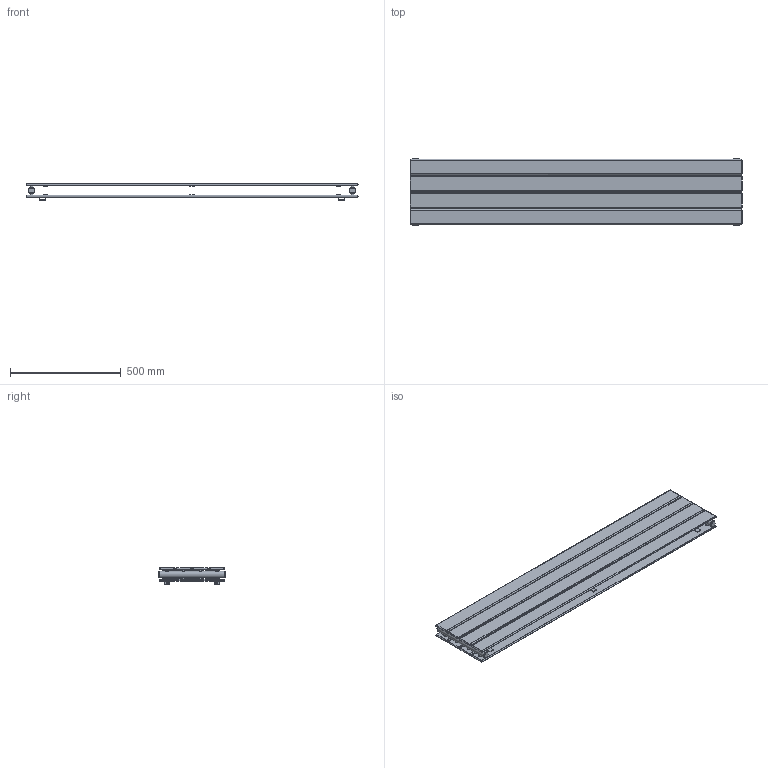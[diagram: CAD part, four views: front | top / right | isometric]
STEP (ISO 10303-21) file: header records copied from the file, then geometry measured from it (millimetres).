
FILE_DESCRIPTION(/* description */ (''),/* implementation_level */ '2;1');
FILE_NAME(/* name */ 'C:\Grzejniki\13DLUXRAD\pokojowe\NIAGARA\to\NIAGARA PODWÓJNA 1500x295.iam.stp',/* time_stamp */ '2016-06-28T17:33:37+02:00',/* author */ ('m.szydziak'),/* organization */ (''),/* preprocessor_version */ 'ST-DEVELOPER v16.5',/* originating_system */ 'Autodesk Inventor 2017',/* authorisation */ '');
FILE_SCHEMA (('AUTOMOTIVE_DESIGN { 1 0 10303 214 3 1 1 }'));
Length unit declared in the file: millimetre
Products named in the file (7): NIAGARA PODWÓJNA 1500x295; %%C30x1,5x295; 70x8x1,2x1504; michałek; poprzeczka 255; ucho małe; korek
Assembly tree (40 placements, depth 2):
  NIAGARA PODWÓJNA 1500x295
    %%C30x1,5x295  x2
    70x8x1,2x1504  x8
    michałek  x16
    poprzeczka 255  x6
    ucho małe  x4
    korek  x4
Bounding box: 1500 x 307 x 75 mm (x, y, z)
Volume: 2276573.8 mm3; surface area: 3697028.8 mm2
Topology: 40 solids, 40 shells, 560 faces, 1314 edges, 816 vertices
Faces by surface type: plane 284, cylinder 196, sphere 64, bspline 16
Full cylindrical faces by diameter (mm): 8 x16, 9 x16, 10 x24, 11.5 x16, 18.631 x4, 24 x4, 27 x2, 30 x2
Entity records: 3947 total; most frequent: CARTESIAN_POINT 1175, DIRECTION 571, ORIENTED_EDGE 454, EDGE_CURVE 227, AXIS2_PLACEMENT_3D 223, VERTEX_POINT 151, EDGE_LOOP 136, LINE 125
